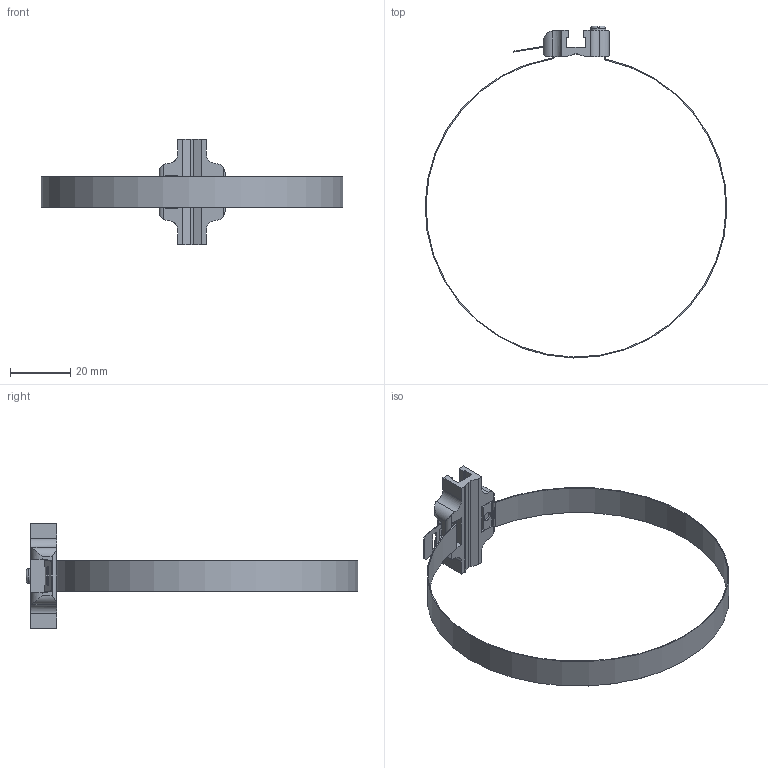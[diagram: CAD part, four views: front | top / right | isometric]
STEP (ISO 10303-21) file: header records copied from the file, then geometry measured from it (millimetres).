
FILE_DESCRIPTION( ( 'STEP AP214' ), ' ' );
FILE_NAME( 'p:/temp/worker_17/3336_884/app_50_02017120213042638445983192d056f_000000_00_00_000000/format_0/SICK BEF-KHZ-RT1-130-1-Bestell-Nr.2077684 (100).stp', '2017-12-02T12:04:26', ( '' ), ( '' ), ' ', 'PARTsolutions', ' ' );
FILE_SCHEMA( ( 'AUTOMOTIVE_DESIGN { 1 0 10303 214 1 1 1 1 }' ) );
Length unit declared in the file: millimetre
Products named in the file (1): _SICK BEF-KHZ-RT1-130-1-Bestell-Nr.2077684 (100)
Bounding box: 100.58 x 110.64 x 35 mm (x, y, z)
Volume: 3811.6 mm3; surface area: 9561.7 mm2
Topology: 1 solids, 1 shells, 128 faces, 363 edges, 240 vertices
Faces by surface type: plane 77, cylinder 49, cone 1, torus 1
Full cylindrical faces by diameter (mm): 3 x2, 3.2 x1
Entity records: 5266 total; most frequent: CARTESIAN_POINT 847, ORIENTED_EDGE 712, DIRECTION 698, EDGE_CURVE 356, LINE 244, VECTOR 244, VERTEX_POINT 238, AXIS2_PLACEMENT_3D 227
